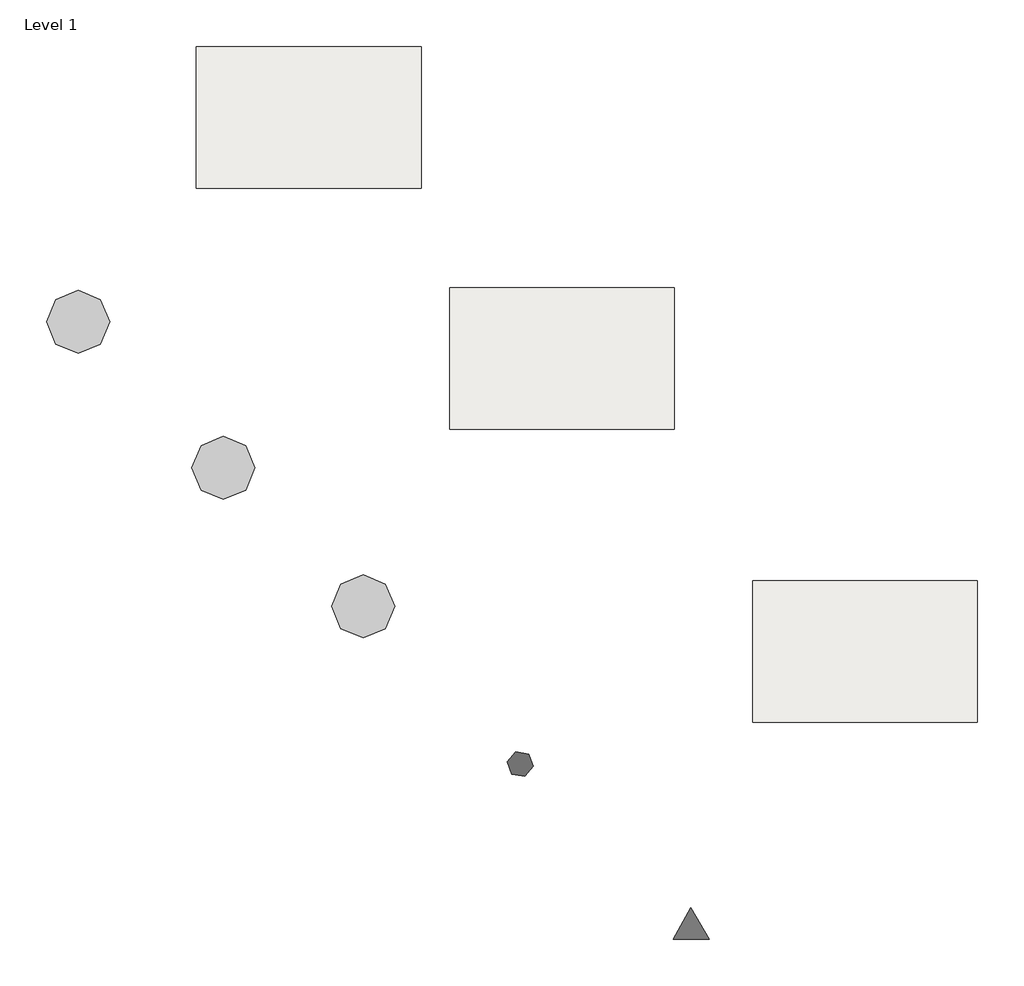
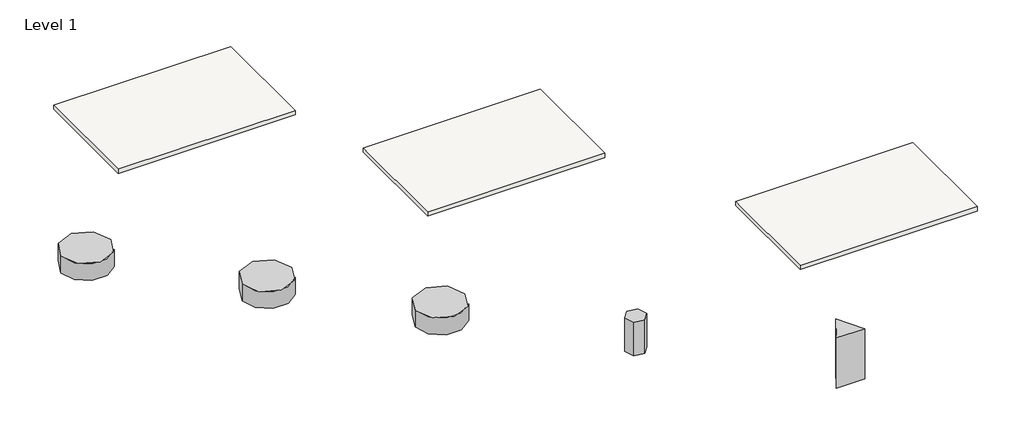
# One storey: 4 proxies, 3 coverings, 1 railing.
"""IFC4 building model written with IfcOpenShell, lengths in millimetres."""

from ifc_helpers import new_model, si_unit, origin, place, context, project, spatial, transform, mapped, element, save
from components import type_1_9a703d4e, test_gm_ifc_override_test_gm_ifc_override_1e6546c9, test_gm_ifc_override1_test_gm_ifc_override_ad24f1da, ifc_test_ceiling_ifc_test_ceiling_0605c007, ifc_test_ceiling1_ifc_test_ceiling_ea1ab778, ifc_test_ceiling2_ifc_test_ceiling_13575725, test_gm_family_type_1_cdf7cc9a

model = new_model("IFC4")

# Units and contexts
model_context = context("Model", 3, world=origin())
ifc_project = project(units=[si_unit("LENGTHUNIT", "METRE", prefix="MILLI")], contexts=[model_context])

# Site, building, storey
site = spatial("IfcSite", under=ifc_project)
building = spatial("IfcBuilding", under=site)
storey = spatial("IfcBuildingStorey", under=building, Name="Level 1", Elevation=0.0)

# Proxies
placement = place(None, origin())
type_1_shape = type_1_9a703d4e(model_context)
element("IfcBuildingElementProxy", 1, Name="test GM family without IfcExportAs : Type 1", ObjectType="test GM family without IfcExportAs : Type 1", at=placement, inside=storey, context=model_context, shape_type="MappedRepresentation", body=[
    mapped(type_1_shape, transform((-7986.606658, -39409.7537504, 0.0), x_axis=(1.0, 0.0, 0.0), y_axis=(0.0, 1.0, 0.0), z_axis=(0.0, 0.0, 1.0))),
])
test_gm_ifc_override_test_gm_ifc_override_shape = test_gm_ifc_override_test_gm_ifc_override_1e6546c9(model_context)
element("IfcBuildingElementProxy", 2, Name="test GM IFC override : test GM IFC override", ObjectType="test GM IFC override : test GM IFC override", at=placement, inside=storey, context=model_context, shape_type="MappedRepresentation", body=[
    mapped(test_gm_ifc_override_test_gm_ifc_override_shape, transform((-10961.781747, -23443.0365698, 0.0), x_axis=(1.0, 0.0, 0.0), y_axis=(0.0, 1.0, 0.0), z_axis=(0.0, 0.0, 1.0))),
])
test_gm_ifc_override1_test_gm_ifc_override_shape = test_gm_ifc_override1_test_gm_ifc_override_ad24f1da(model_context)
element("IfcBuildingElementProxy", 3, Name="test GM IFC override1 : test GM IFC override", ObjectType="test GM IFC override1 : test GM IFC override", at=placement, inside=storey, context=model_context, shape_type="MappedRepresentation", body=[
    mapped(test_gm_ifc_override1_test_gm_ifc_override_shape, transform((-10070.6621393, -17281.820086, 0.0), x_axis=(1.0, 0.0, 0.0), y_axis=(0.0, 1.0, 0.0), z_axis=(0.0, 0.0, 1.0))),
])
element("IfcBuildingElementProxy", 4, Name="test GM IFC override2 : test GM IFC override", ObjectType="test GM IFC override2 : test GM IFC override", at=placement, inside=storey, context=model_context, shape_type="MappedRepresentation", body=[
    mapped(test_gm_ifc_override1_test_gm_ifc_override_shape, transform((-16536.1493876, -10786.907722, 0.0), x_axis=(1.0, 0.0, 0.0), y_axis=(0.0, 1.0, 0.0), z_axis=(0.0, 0.0, 1.0))),
])

# Coverings
ifc_test_ceiling_ifc_test_ceiling_shape = ifc_test_ceiling_ifc_test_ceiling_0605c007(model_context)
element("IfcCovering", 5, ObjectType="IFC test ceiling : IFC test ceiling", at=placement, inside=storey, context=model_context, shape_type="MappedRepresentation", body=[
    mapped(ifc_test_ceiling_ifc_test_ceiling_shape, transform((7162.3337065, -31180.4441737, 0.0), x_axis=(1.0, 0.0, 0.0), y_axis=(0.0, 1.0, 0.0), z_axis=(0.0, 0.0, 1.0))),
])
ifc_test_ceiling1_ifc_test_ceiling_shape = ifc_test_ceiling1_ifc_test_ceiling_ea1ab778(model_context)
element("IfcCovering", 6, ObjectType="IFC test ceiling1 : IFC test ceiling", at=placement, inside=storey, context=model_context, shape_type="MappedRepresentation", body=[
    mapped(ifc_test_ceiling1_ifc_test_ceiling_shape, transform((0.0, 0.0, 0.0), x_axis=(1.0, 0.0, 0.0), y_axis=(0.0, 1.0, 0.0), z_axis=(0.0, 0.0, 1.0))),
])
ifc_test_ceiling2_ifc_test_ceiling_shape = ifc_test_ceiling2_ifc_test_ceiling_13575725(model_context)
element("IfcCovering", 7, ObjectType="IFC test ceiling2 : IFC test ceiling", at=placement, inside=storey, context=model_context, shape_type="MappedRepresentation", body=[
    mapped(ifc_test_ceiling2_ifc_test_ceiling_shape, transform((0.0, 0.0, 0.0), x_axis=(1.0, 0.0, 0.0), y_axis=(0.0, 1.0, 0.0), z_axis=(0.0, 0.0, 1.0))),
])

# Railing
test_gm_family_type_1_shape = test_gm_family_type_1_cdf7cc9a(model_context)
element("IfcRailing", 8, ObjectType="test GM family : Type 1", at=placement, inside=storey, context=model_context, shape_type="MappedRepresentation", body=[
    mapped(test_gm_family_type_1_shape, transform((-15575.4993074, -32197.1565165, 0.0), x_axis=(1.0, 0.0, 0.0), y_axis=(0.0, 1.0, 0.0), z_axis=(0.0, 0.0, 1.0))),
])

save(model, "model.ifc")
